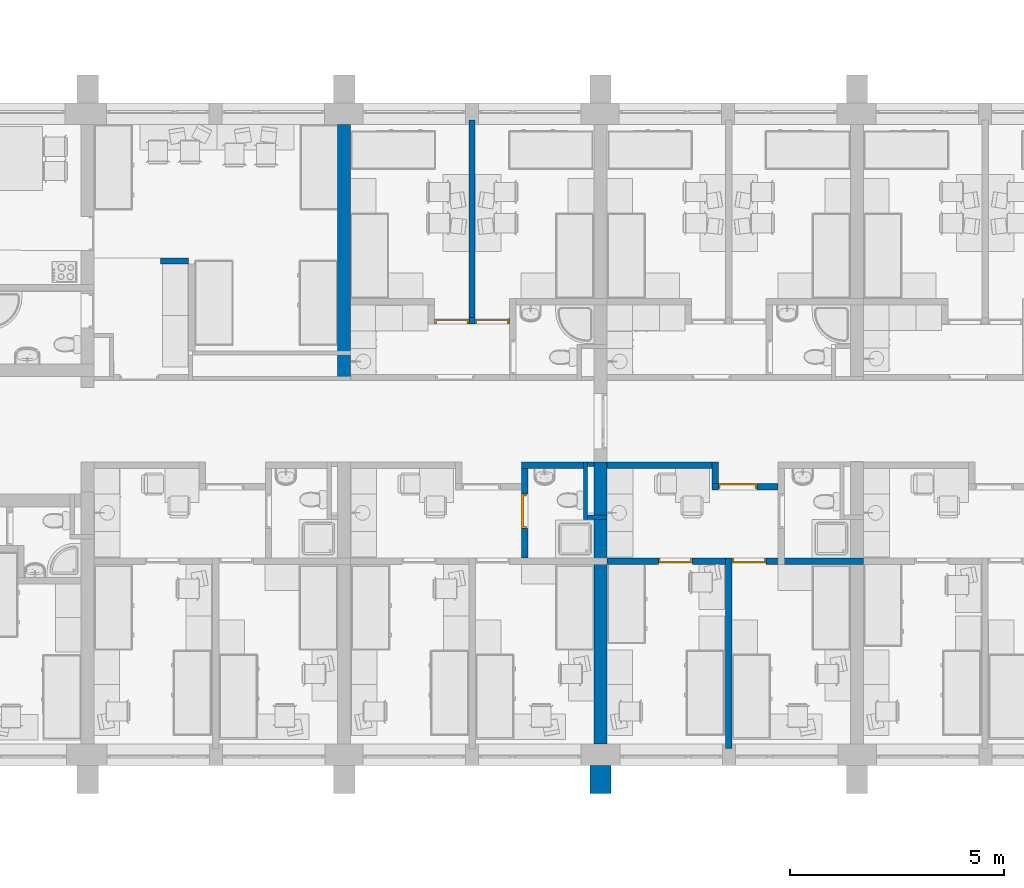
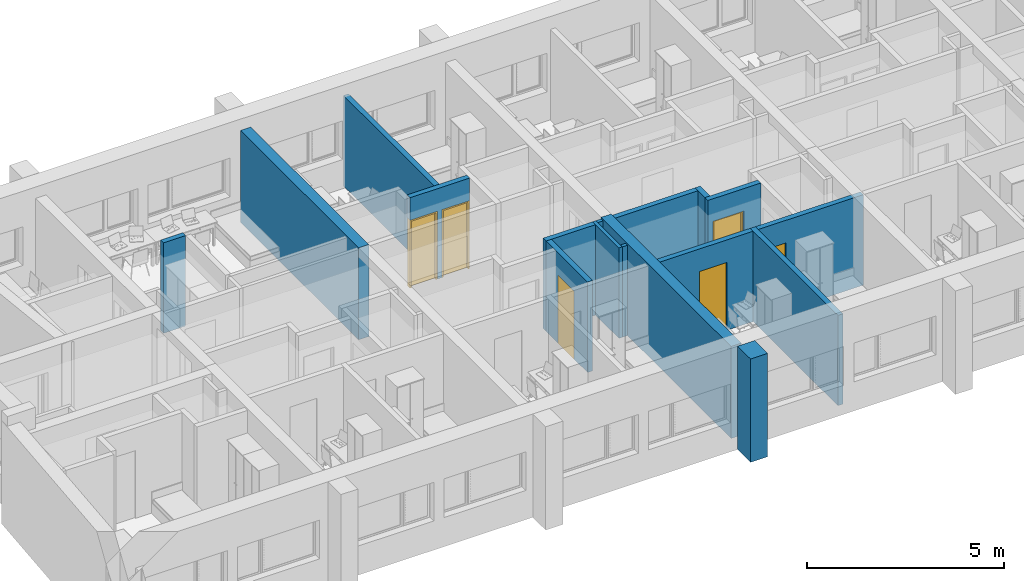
# One storey, part 5 of 165: 16 walls, 6 doors, 6 openings.
"""IFC2X3 building model written with IfcOpenShell, lengths in millimetres."""

from ifc_helpers import new_model, entity, si_unit, converted_unit, money_unit, direction, frame, origin_with_axes, place, context, subcontext, project, spatial, polyline, outline, extrude, faceted_brep, source, transform, mapped, material, material_list, layer, layer_set, layer_usage, type_object, element, fill, save


model = new_model("IFC2X3")

# Units and contexts
model_context = context("Model", 3, precision=1e-05, world=origin_with_axes(), true_north=direction((0.0, 1.0)))
body_context = subcontext(model_context, "Body", "Model", "MODEL_VIEW")
ifc_project = project(units=[si_unit("LENGTHUNIT", "METRE", prefix="MILLI"), si_unit("AREAUNIT", "SQUARE_METRE"), si_unit("VOLUMEUNIT", "CUBIC_METRE"), converted_unit("PLANEANGLEUNIT", "DEGREE", entity("IfcPlaneAngleMeasure", 0.0174532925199), si_unit("PLANEANGLEUNIT", "RADIAN"), dimensions=[0, 0, 0, 0, 0, 0, 0]), si_unit("SOLIDANGLEUNIT", "STERADIAN"), money_unit("USD"), converted_unit("TIMEUNIT", "Year", entity("IfcTimeMeasure", 31556926.0), si_unit("TIMEUNIT", "SECOND"), dimensions=[0, 0, 0, 0, 0, 0, 0]), si_unit("MASSUNIT", "GRAM"), si_unit("THERMODYNAMICTEMPERATUREUNIT", "DEGREE_CELSIUS"), si_unit("LUMINOUSINTENSITYUNIT", "LUMEN")], contexts=[model_context])

# Site, building, storey
site_placement = place(None, origin_with_axes())
site = spatial("IfcSite", under=ifc_project, at=site_placement, Name="Site", CompositionType="ELEMENT")
building_placement = place(site_placement, origin_with_axes())
building = spatial("IfcBuilding", under=site, at=building_placement, Name="Building", CompositionType="ELEMENT")
storey_placement = place(building_placement, frame((0.0, 0.0, 6300.0), z_axis=(0.0, 0.0, 1.0), x_axis=(1.0, 0.0, 0.0)))
storey = spatial("IfcBuildingStorey", under=building, at=storey_placement, Name="4KORRUS", CompositionType="ELEMENT", Elevation=6300.0)

# Walls
ifc_material_1 = material(Name="Olemasolevad seinad tellis, uus viimistlus")
ifc_layer_1 = layer(ifc_material_1, 500.0, ventilated="UNKNOWN")
ifc_layer_set_1 = layer_set([ifc_layer_1], Name="Olemasolevad seinad tellis, uus viimistlus 500")
ifc_layer_usage_1 = layer_usage(ifc_layer_set_1, "AXIS2", "POSITIVE", -100.0)
wall_type_1 = type_object("IfcWallType", Name="Olemasolevad seinad tellis, uus viimistlus 500", PredefinedType="NOTDEFINED")
wall_1_placement = place(storey_placement, frame((-35990.2967033, -20796.6419407, 0.0), z_axis=(0.0, 0.0, 1.0), x_axis=(0.0, 1.0, 0.0)))
element("IfcWallStandardCase", 1, at=wall_1_placement, inside=storey, type_object=wall_type_1, material=ifc_layer_usage_1, Name="VS1", ObjectType="VS1", context=body_context, shape_type="SweptSolid", body=[
    extrude(outline(polyline([(0.0, -100.0), (657.402041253, -100.0), (657.402041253, 400.0), (0.0, 400.0), (0.0, -100.0)])), origin_with_axes(), (0.0, 0.0, 1.0), 3200.0),
])
ifc_material_2 = material(Name="UmbKipsplaat")
ifc_layer_2 = layer(ifc_material_2, 13.0, ventilated="UNKNOWN")
ifc_layer_3 = layer(ifc_material_2, 13.0, ventilated="UNKNOWN")
ifc_material_3 = material(Name="SOOJUSTUS MINERAALVILL")
ifc_layer_4 = layer(ifc_material_3, 98.0, ventilated="UNKNOWN")
ifc_layer_5 = layer(ifc_material_2, 13.0, ventilated="UNKNOWN")
ifc_layer_6 = layer(ifc_material_2, 13.0, ventilated="UNKNOWN")
ifc_layer_set_2 = layer_set([ifc_layer_2, ifc_layer_3, ifc_layer_4, ifc_layer_5, ifc_layer_6], Name="kipssein150")
ifc_layer_usage_2 = layer_usage(ifc_layer_set_2, "AXIS2", "POSITIVE", 0.0)
wall_type_2 = type_object("IfcWallType", Name="kipssein150 150", PredefinedType="NOTDEFINED")
wall_2_placement = place(storey_placement, frame((-39222.0319183, -5039.6041088, 0.0), z_axis=(0.0, 0.0, 1.0), x_axis=(0.0, -1.0, 0.0)))
element("IfcWallStandardCase", 2, at=wall_2_placement, inside=storey, type_object=wall_type_2, material=ifc_layer_usage_2, Name="SS1", ObjectType="SS1", context=body_context, shape_type="SweptSolid", body=[
    extrude(outline(polyline([(0.0, 0.0), (4767.29002979, 0.0), (4767.29002979, 150.0), (0.0, 150.0), (0.0, 0.0)])), origin_with_axes(), (0.0, 0.0, 1.0), 2800.0),
])

# Wall, openings, doors
ifc_layer_usage_3 = layer_usage(ifc_layer_set_2, "AXIS2", "POSITIVE", 0.0)
wall_3_placement = place(storey_placement, frame((-40022.0319183, -9806.89413859, 0.0), z_axis=(0.0, 0.0, 1.0), x_axis=(1.0, 0.0, 0.0)))
wall_3 = element("IfcWallStandardCase", 3, at=wall_3_placement, inside=storey, type_object=wall_type_2, material=ifc_layer_usage_3, Name="SS1", ObjectType="SS1", context=body_context, shape_type="SweptSolid", body=[
    extrude(outline(polyline([(0.0, 0.0), (1750.44681959, 0.0), (1750.44681959, 150.0), (0.0, 150.0), (0.0, 0.0)])), origin_with_axes(), (0.0, 0.0, 1.0), 2800.0),
])
opening_1_placement = place(wall_3_placement, frame((1341.45577623, 0.0, 0.0), z_axis=(0.0, 0.0, 1.0), x_axis=(1.0, 0.0, 0.0)))
opening_1 = element("IfcOpeningElement", 4, at=opening_1_placement, cuts=wall_3, Name="SU3-5", context=body_context, shape_type="SweptSolid", body=[
    extrude(outline(polyline([(-400.0, 0.0), (400.0, 0.0), (400.0, 2100.0), (-400.0, 2100.0), (-400.0, 0.0)])), frame((0.0, 150.0, 0.0), z_axis=(0.0, 1.0, 0.0), x_axis=(-1.0, 0.0, 0.0)), (0.0, 0.0, -1.0), 450.0),
])
opening_2_placement = place(wall_3_placement, frame((400.0, 0.0, 0.0), z_axis=(0.0, 0.0, 1.0), x_axis=(1.0, 0.0, 0.0)))
opening_2 = element("IfcOpeningElement", 5, at=opening_2_placement, cuts=wall_3, Name="SU3-4", context=body_context, shape_type="SweptSolid", body=[
    extrude(outline(polyline([(-400.0, 0.0), (400.0, 0.0), (400.0, 2100.0), (-400.0, 2100.0), (-400.0, 0.0)])), frame((0.0, 150.0, 0.0), z_axis=(0.0, -1.0, 0.0), x_axis=(1.0, 0.0, 0.0)), (0.0, 0.0, 1.0), 450.0),
])
ifc_material_4 = material(Name="Background")
ifc_material_list = material_list([ifc_material_4])
door_style_1 = type_object("IfcDoorStyle", Name="Door 19", ConstructionType="NOTDEFINED", OperationType="SINGLE_SWING_LEFT", ParameterTakesPrecedence=False, Sizeable=False)
shared_shape_1 = source(origin_with_axes(), body_context, "Body", "Brep", [
    faceted_brep([(360.0, -75.0, 0.0), (360.0, -150.0, 0.0), (360.0, -150.0, 2060.0), (360.0, -75.0, 2060.0), (372.0, -75.0, 0.0), (372.0, -35.0, 0.0), (400.0, -35.0, 0.0), (400.0, -150.0, 0.0), (400.0, -150.0, 2060.0), (372.0, -75.0, 2060.0), (400.0, -35.0, 2060.0), (372.0, -35.0, 2060.0)], [[[0, 1, 2, 3]], [[4, 5, 6, 7, 1, 0]], [[2, 1, 7, 8]], [[9, 3, 2, 8, 10, 11]], [[9, 4, 0, 3]], [[11, 5, 4, 9]], [[11, 10, 6, 5]], [[7, 6, 10, 8]]]),
    faceted_brep([(-372.0, -75.0, 2060.0), (-372.0, -35.0, 2060.0), (-400.0, -35.0, 2060.0), (-400.0, -150.0, 2060.0), (-360.0, -150.0, 2060.0), (-360.0, -75.0, 2060.0), (-372.0, -75.0, 0.0), (-372.0, -35.0, 0.0), (-400.0, -35.0, 0.0), (-400.0, -150.0, 0.0), (-360.0, -150.0, 0.0), (-360.0, -75.0, 0.0)], [[[0, 1, 2, 3, 4, 5]], [[0, 6, 7, 1]], [[7, 8, 2, 1]], [[3, 2, 8, 9]], [[4, 3, 9, 10]], [[5, 4, 10, 11]], [[5, 11, 6, 0]], [[6, 11, 10, 9, 8, 7]]]),
    faceted_brep([(372.0, -35.0, 2072.0), (-372.0, -35.0, 2072.0), (-372.0, -35.0, 2060.0), (-400.0, -35.0, 2060.0), (-400.0, -35.0, 2100.0), (400.0, -35.0, 2100.0), (400.0, -35.0, 2060.0), (372.0, -35.0, 2060.0), (372.0, -75.0, 2072.0), (-372.0, -75.0, 2072.0), (-372.0, -75.0, 2060.0), (-360.0, -75.0, 2060.0), (-360.0, -150.0, 2060.0), (-400.0, -150.0, 2060.0), (-400.0, -150.0, 2100.0), (400.0, -150.0, 2100.0), (400.0, -150.0, 2060.0), (372.0, -75.0, 2060.0), (360.0, -150.0, 2060.0), (360.0, -75.0, 2060.0)], [[[0, 1, 2, 3, 4, 5, 6, 7]], [[0, 8, 9, 1]], [[1, 9, 10, 2]], [[10, 11, 12, 13, 3, 2]], [[14, 4, 3, 13]], [[15, 5, 4, 14]], [[16, 6, 5, 15]], [[17, 7, 6, 16, 18, 19]], [[7, 17, 8, 0]], [[10, 9, 8, 17, 19, 11]], [[19, 18, 12, 11]], [[13, 12, 18, 16, 15, 14]]]),
    faceted_brep([(-372.0, -35.0, 0.0), (372.0, -35.0, 0.0), (372.0, -75.0, 0.0), (-372.0, -75.0, 0.0), (-372.0, -35.0, 2072.0), (372.0, -35.0, 2072.0), (372.0, -75.0, 2072.0), (-372.0, -75.0, 2072.0)], [[[0, 1, 2, 3]], [[0, 4, 5, 1]], [[1, 5, 6, 2]], [[3, 2, 6, 7]], [[4, 0, 3, 7]], [[5, 4, 7, 6]]]),
])
door_1_placement = place(opening_1_placement, frame((-400.0, 0.0, 0.0), z_axis=(0.0, 0.0, 1.0), x_axis=(1.0, 0.0, 0.0)))
door_1 = element("IfcDoor", 6, at=door_1_placement, inside=storey, type_object=door_style_1, material=ifc_material_list, Name="SU3-5", ObjectType="Toa uks", OverallHeight=2100.0, OverallWidth=800.0, context=body_context, shape_type="MappedRepresentation", body=[
    mapped(shared_shape_1, transform((400.0, 150.0, 0.0))),
])
fill(opening_1, door_1)
door_style_2 = type_object("IfcDoorStyle", Name="Door 19", ConstructionType="NOTDEFINED", OperationType="SINGLE_SWING_RIGHT", ParameterTakesPrecedence=False, Sizeable=False)
shared_shape_2 = source(origin_with_axes(), body_context, "Body", "Brep", [
    faceted_brep([(-360.0, -75.0, 0.0), (-360.0, -75.0, 2060.0), (-360.0, -150.0, 2060.0), (-360.0, -150.0, 0.0), (-372.0, -75.0, 2060.0), (-372.0, -75.0, 0.0), (-372.0, -35.0, 2060.0), (-400.0, -35.0, 2060.0), (-400.0, -150.0, 2060.0), (-400.0, -150.0, 0.0), (-400.0, -35.0, 0.0), (-372.0, -35.0, 0.0)], [[[0, 1, 2, 3]], [[4, 1, 0, 5]], [[4, 6, 7, 8, 2, 1]], [[2, 8, 9, 3]], [[5, 0, 3, 9, 10, 11]], [[6, 4, 5, 11]], [[6, 11, 10, 7]], [[9, 8, 7, 10]]]),
    faceted_brep([(372.0, -75.0, 2060.0), (360.0, -75.0, 2060.0), (360.0, -150.0, 2060.0), (400.0, -150.0, 2060.0), (400.0, -35.0, 2060.0), (372.0, -35.0, 2060.0), (372.0, -75.0, 0.0), (360.0, -75.0, 0.0), (360.0, -150.0, 0.0), (400.0, -150.0, 0.0), (400.0, -35.0, 0.0), (372.0, -35.0, 0.0)], [[[0, 1, 2, 3, 4, 5]], [[1, 0, 6, 7]], [[1, 7, 8, 2]], [[2, 8, 9, 3]], [[3, 9, 10, 4]], [[11, 5, 4, 10]], [[0, 5, 11, 6]], [[6, 11, 10, 9, 8, 7]]]),
    faceted_brep([(-372.0, -35.0, 2072.0), (-372.0, -35.0, 2060.0), (-400.0, -35.0, 2060.0), (-400.0, -35.0, 2100.0), (400.0, -35.0, 2100.0), (400.0, -35.0, 2060.0), (372.0, -35.0, 2060.0), (372.0, -35.0, 2072.0), (-372.0, -75.0, 2072.0), (-372.0, -75.0, 2060.0), (-360.0, -75.0, 2060.0), (-360.0, -150.0, 2060.0), (-400.0, -150.0, 2060.0), (-400.0, -150.0, 2100.0), (400.0, -150.0, 2100.0), (400.0, -150.0, 2060.0), (372.0, -75.0, 2060.0), (360.0, -150.0, 2060.0), (360.0, -75.0, 2060.0), (372.0, -75.0, 2072.0)], [[[0, 1, 2, 3, 4, 5, 6, 7]], [[1, 0, 8, 9]], [[9, 10, 11, 12, 2, 1]], [[12, 13, 3, 2]], [[13, 14, 4, 3]], [[14, 15, 5, 4]], [[16, 6, 5, 15, 17, 18]], [[7, 6, 16, 19]], [[0, 7, 19, 8]], [[16, 18, 10, 9, 8, 19]], [[10, 18, 17, 11]], [[15, 14, 13, 12, 11, 17]]]),
    faceted_brep([(372.0, -35.0, 0.0), (372.0, -75.0, 0.0), (-372.0, -75.0, 0.0), (-372.0, -35.0, 0.0), (372.0, -35.0, 2072.0), (372.0, -75.0, 2072.0), (-372.0, -75.0, 2072.0), (-372.0, -35.0, 2072.0)], [[[0, 1, 2, 3]], [[4, 5, 1, 0]], [[1, 5, 6, 2]], [[3, 2, 6, 7]], [[0, 3, 7, 4]], [[7, 6, 5, 4]]]),
])
door_2_placement = place(opening_2_placement, frame((-400.0, 0.0, 0.0), z_axis=(0.0, 0.0, 1.0), x_axis=(1.0, 0.0, 0.0)))
door_2 = element("IfcDoor", 7, at=door_2_placement, inside=storey, type_object=door_style_2, material=ifc_material_list, Name="SU3-4", ObjectType="Toa uks", OverallHeight=2100.0, OverallWidth=800.0, context=body_context, shape_type="MappedRepresentation", body=[
    mapped(shared_shape_2, transform((400.0, 150.0, 0.0))),
])
fill(opening_2, door_2)

# Wall
ifc_layer_usage_4 = layer_usage(ifc_layer_set_2, "AXIS2", "POSITIVE", 0.0)
wall_4_placement = place(storey_placement, frame((-46433.9824806, -8409.87086674, 0.0), z_axis=(0.0, 0.0, 1.0), x_axis=(1.0, 0.0, 0.0)))
element("IfcWallStandardCase", 8, at=wall_4_placement, inside=storey, type_object=wall_type_2, material=ifc_layer_usage_4, Name="SS1", ObjectType="SS1", context=body_context, shape_type="SweptSolid", body=[
    extrude(outline(polyline([(0.0, 0.0), (649.849705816, 0.0), (649.849705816, 150.0), (0.0, 150.0), (0.0, 0.0)])), origin_with_axes(), (0.0, 0.0, 1.0), 2800.0),
])

# Wall, opening, door
ifc_layer_usage_5 = layer_usage(ifc_layer_set_2, "AXIS2", "POSITIVE", -150.0)
wall_5_placement = place(storey_placement, frame((-37984.201689, -15289.2398994, 0.0), z_axis=(0.0, 0.0, 1.0), x_axis=(0.0, 1.0, 0.0)))
wall_5 = element("IfcWallStandardCase", 9, at=wall_5_placement, inside=storey, type_object=wall_type_2, material=ifc_layer_usage_5, Name="SS1", ObjectType="SS1", context=body_context, shape_type="SweptSolid", body=[
    extrude(outline(polyline([(0.0, -150.0), (2249.86932682, -150.0), (2249.86932682, 0.0), (0.0, 0.0), (0.0, -150.0)])), origin_with_axes(), (0.0, 0.0, 1.0), 2800.0),
])
opening_3_placement = place(wall_5_placement, frame((1099.78749111, 0.0, 0.0), z_axis=(0.0, 0.0, 1.0), x_axis=(1.0, 0.0, 0.0)))
opening_3 = element("IfcOpeningElement", 10, at=opening_3_placement, cuts=wall_5, Name="SU3-2", context=body_context, shape_type="SweptSolid", body=[
    extrude(outline(polyline([(-400.0, -2100.0), (400.0, -2100.0), (400.0, 0.0), (-400.0, 0.0), (-400.0, -2100.0)])), frame((0.0, -150.0, 0.0), z_axis=(0.0, 1.0, 0.0), x_axis=(1.0, 0.0, 0.0)), (0.0, 0.0, 1.0), 450.0),
])
door_style_3 = type_object("IfcDoorStyle", Name="Door 19", ConstructionType="NOTDEFINED", OperationType="SINGLE_SWING_RIGHT", ParameterTakesPrecedence=False, Sizeable=False)
shared_shape_3 = source(origin_with_axes(), body_context, "Body", "Brep", [
    faceted_brep([(-360.0, -40.0, 0.0), (-360.0, -40.0, 2060.0), (-360.0, -115.0, 2060.0), (-360.0, -115.0, 0.0), (-372.0, -40.0, 2060.0), (-372.0, -40.0, 0.0), (-372.0, 0.0, 2060.0), (-400.0, 0.0, 2060.0), (-400.0, -115.0, 2060.0), (-400.0, -115.0, 0.0), (-400.0, 0.0, 0.0), (-372.0, 0.0, 0.0)], [[[0, 1, 2, 3]], [[4, 1, 0, 5]], [[4, 6, 7, 8, 2, 1]], [[2, 8, 9, 3]], [[5, 0, 3, 9, 10, 11]], [[6, 4, 5, 11]], [[6, 11, 10, 7]], [[9, 8, 7, 10]]]),
    faceted_brep([(372.0, -40.0, 2060.0), (360.0, -40.0, 2060.0), (360.0, -115.0, 2060.0), (400.0, -115.0, 2060.0), (400.0, 0.0, 2060.0), (372.0, 0.0, 2060.0), (372.0, -40.0, 0.0), (360.0, -40.0, 0.0), (360.0, -115.0, 0.0), (400.0, -115.0, 0.0), (400.0, 0.0, 0.0), (372.0, 0.0, 0.0)], [[[0, 1, 2, 3, 4, 5]], [[1, 0, 6, 7]], [[1, 7, 8, 2]], [[2, 8, 9, 3]], [[3, 9, 10, 4]], [[11, 5, 4, 10]], [[0, 5, 11, 6]], [[6, 11, 10, 9, 8, 7]]]),
    faceted_brep([(-372.0, 0.0, 2072.0), (-372.0, 0.0, 2060.0), (-400.0, 0.0, 2060.0), (-400.0, 0.0, 2100.0), (400.0, 0.0, 2100.0), (400.0, 0.0, 2060.0), (372.0, 0.0, 2060.0), (372.0, 0.0, 2072.0), (-372.0, -40.0, 2072.0), (-372.0, -40.0, 2060.0), (-360.0, -40.0, 2060.0), (-360.0, -115.0, 2060.0), (-400.0, -115.0, 2060.0), (-400.0, -115.0, 2100.0), (400.0, -115.0, 2100.0), (400.0, -115.0, 2060.0), (372.0, -40.0, 2060.0), (360.0, -115.0, 2060.0), (360.0, -40.0, 2060.0), (372.0, -40.0, 2072.0)], [[[0, 1, 2, 3, 4, 5, 6, 7]], [[1, 0, 8, 9]], [[9, 10, 11, 12, 2, 1]], [[12, 13, 3, 2]], [[13, 14, 4, 3]], [[14, 15, 5, 4]], [[16, 6, 5, 15, 17, 18]], [[7, 6, 16, 19]], [[0, 7, 19, 8]], [[16, 18, 10, 9, 8, 19]], [[10, 18, 17, 11]], [[15, 14, 13, 12, 11, 17]]]),
    faceted_brep([(372.0, 0.0, 0.0), (372.0, -40.0, 0.0), (-372.0, -40.0, 0.0), (-372.0, 0.0, 0.0), (372.0, 0.0, 2072.0), (372.0, -40.0, 2072.0), (-372.0, -40.0, 2072.0), (-372.0, 0.0, 2072.0)], [[[0, 1, 2, 3]], [[4, 5, 1, 0]], [[1, 5, 6, 2]], [[3, 2, 6, 7]], [[0, 3, 7, 4]], [[7, 6, 5, 4]]]),
])
door_3_placement = place(opening_3_placement, frame((-400.0, 0.0, 0.0), z_axis=(0.0, 0.0, 1.0), x_axis=(1.0, 0.0, 0.0)))
door_3 = element("IfcDoor", 11, at=door_3_placement, inside=storey, type_object=door_style_3, material=ifc_material_list, Name="SU3-2", ObjectType="WC-uks", OverallHeight=2100.0, OverallWidth=800.0, context=body_context, shape_type="MappedRepresentation", body=[
    mapped(shared_shape_3, transform((400.0, 0.0, 0.0))),
])
fill(opening_3, door_3)

# Wall
ifc_layer_usage_6 = layer_usage(ifc_layer_set_2, "AXIS2", "POSITIVE", -150.0)
wall_6_placement = place(storey_placement, frame((-37984.201689, -13039.3705726, 0.0), z_axis=(0.0, 0.0, 1.0), x_axis=(1.0, 0.0, 0.0)))
element("IfcWallStandardCase", 12, at=wall_6_placement, inside=storey, type_object=wall_type_2, material=ifc_layer_usage_6, Name="SS1", ObjectType="SS1", context=body_context, shape_type="SweptSolid", body=[
    extrude(outline(polyline([(0.0, -150.0), (1450.19338105, -150.0), (1450.19338105, 0.0), (0.0, 0.0), (0.0, -150.0)])), origin_with_axes(), (0.0, 0.0, 1.0), 2800.0),
])

# Wall, openings, doors
ifc_layer_usage_7 = layer_usage(ifc_layer_set_2, "AXIS2", "POSITIVE", -150.0)
wall_7_placement = place(storey_placement, frame((-29990.2967033, -15439.2398994, 0.0), z_axis=(0.0, 0.0, 1.0), x_axis=(-1.0, 0.0, 0.0)))
wall_7 = element("IfcWallStandardCase", 13, at=wall_7_placement, inside=storey, type_object=wall_type_2, material=ifc_layer_usage_7, Name="SS1", ObjectType="SS1", context=body_context, shape_type="SweptSolid", body=[
    extrude(outline(polyline([(0.0, -150.0), (6000.0, -150.0), (6000.0, 0.0), (0.0, 0.0), (0.0, -150.0)])), origin_with_axes(), (0.0, 0.0, 1.0), 2800.0),
])
opening_4_placement = place(wall_7_placement, frame((4400.0, 0.0, 0.0), z_axis=(0.0, 0.0, 1.0), x_axis=(1.0, 0.0, 0.0)))
opening_4 = element("IfcOpeningElement", 14, at=opening_4_placement, cuts=wall_7, Name="SU3-5", context=body_context, shape_type="SweptSolid", body=[
    extrude(outline(polyline([(-400.0, 0.0), (400.0, 0.0), (400.0, 2100.0), (-400.0, 2100.0), (-400.0, 0.0)])), frame((0.0, 150.0, 0.0), z_axis=(0.0, 1.0, 0.0), x_axis=(-1.0, 0.0, 0.0)), (0.0, 0.0, -1.0), 450.0),
])
opening_5_placement = place(wall_7_placement, frame((2675.0, 0.0, 0.0), z_axis=(0.0, 0.0, 1.0), x_axis=(1.0, 0.0, 0.0)))
opening_5 = element("IfcOpeningElement", 15, at=opening_5_placement, cuts=wall_7, Name="SU3-4", context=body_context, shape_type="SweptSolid", body=[
    extrude(outline(polyline([(-400.0, 0.0), (400.0, 0.0), (400.0, 2100.0), (-400.0, 2100.0), (-400.0, 0.0)])), frame((0.0, 150.0, 0.0), z_axis=(0.0, -1.0, 0.0), x_axis=(1.0, 0.0, 0.0)), (0.0, 0.0, 1.0), 450.0),
])
door_style_4 = type_object("IfcDoorStyle", Name="Door 19", ConstructionType="NOTDEFINED", OperationType="SINGLE_SWING_LEFT", ParameterTakesPrecedence=False, Sizeable=False)
door_4_placement = place(opening_4_placement, frame((-400.0, 0.0, 0.0), z_axis=(0.0, 0.0, 1.0), x_axis=(1.0, 0.0, 0.0)))
door_4 = element("IfcDoor", 16, at=door_4_placement, inside=storey, type_object=door_style_4, material=ifc_material_list, Name="SU3-5", ObjectType="Toa uks", OverallHeight=2100.0, OverallWidth=800.0, context=body_context, shape_type="MappedRepresentation", body=[
    mapped(shared_shape_1, transform((400.0, 0.0, 0.0))),
])
fill(opening_4, door_4)
door_style_5 = type_object("IfcDoorStyle", Name="Door 19", ConstructionType="NOTDEFINED", OperationType="SINGLE_SWING_RIGHT", ParameterTakesPrecedence=False, Sizeable=False)
shared_shape_4 = source(origin_with_axes(), body_context, "Body", "Brep", [
    faceted_brep([(-360.0, -75.0, 0.0), (-360.0, -75.0, 2060.0), (-360.0, -150.0, 2060.0), (-360.0, -150.0, 0.0), (-372.0, -75.0, 2060.0), (-372.0, -75.0, 0.0), (-372.0, -35.0, 2060.0), (-400.0, -35.0, 2060.0), (-400.0, -150.0, 2060.0), (-400.0, -150.0, 0.0), (-400.0, -35.0, 0.0), (-372.0, -35.0, 0.0)], [[[0, 1, 2, 3]], [[4, 1, 0, 5]], [[4, 6, 7, 8, 2, 1]], [[2, 8, 9, 3]], [[5, 0, 3, 9, 10, 11]], [[6, 4, 5, 11]], [[6, 11, 10, 7]], [[9, 8, 7, 10]]]),
    faceted_brep([(372.0, -75.0, 2060.0), (360.0, -75.0, 2060.0), (360.0, -150.0, 2060.0), (400.0, -150.0, 2060.0), (400.0, -35.0, 2060.0), (372.0, -35.0, 2060.0), (372.0, -75.0, 0.0), (360.0, -75.0, 0.0), (360.0, -150.0, 0.0), (400.0, -150.0, 0.0), (400.0, -35.0, 0.0), (372.0, -35.0, 0.0)], [[[0, 1, 2, 3, 4, 5]], [[1, 0, 6, 7]], [[1, 7, 8, 2]], [[2, 8, 9, 3]], [[3, 9, 10, 4]], [[11, 5, 4, 10]], [[0, 5, 11, 6]], [[6, 11, 10, 9, 8, 7]]]),
    faceted_brep([(-372.0, -35.0, 2072.0), (-372.0, -35.0, 2060.0), (-400.0, -35.0, 2060.0), (-400.0, -35.0, 2100.0), (400.0, -35.0, 2100.0), (400.0, -35.0, 2060.0), (372.0, -35.0, 2060.0), (372.0, -35.0, 2072.0), (-372.0, -75.0, 2072.0), (-372.0, -75.0, 2060.0), (-360.0, -75.0, 2060.0), (-360.0, -150.0, 2060.0), (-400.0, -150.0, 2060.0), (-400.0, -150.0, 2100.0), (400.0, -150.0, 2100.0), (400.0, -150.0, 2060.0), (372.0, -75.0, 2060.0), (360.0, -150.0, 2060.0), (360.0, -75.0, 2060.0), (372.0, -75.0, 2072.0)], [[[0, 1, 2, 3, 4, 5, 6, 7]], [[1, 0, 8, 9]], [[9, 10, 11, 12, 2, 1]], [[12, 13, 3, 2]], [[13, 14, 4, 3]], [[14, 15, 5, 4]], [[16, 6, 5, 15, 17, 18]], [[7, 6, 16, 19]], [[0, 7, 19, 8]], [[16, 18, 10, 9, 8, 19]], [[10, 18, 17, 11]], [[15, 14, 13, 12, 11, 17]]]),
    faceted_brep([(372.0, -35.0, 0.0), (372.0, -75.0, 0.0), (-372.0, -75.0, 0.0), (-372.0, -35.0, 0.0), (372.0, -35.0, 2072.0), (372.0, -75.0, 2072.0), (-372.0, -75.0, 2072.0), (-372.0, -35.0, 2072.0)], [[[0, 1, 2, 3]], [[4, 5, 1, 0]], [[1, 5, 6, 2]], [[3, 2, 6, 7]], [[0, 3, 7, 4]], [[7, 6, 5, 4]]]),
])
door_5_placement = place(opening_5_placement, frame((-400.0, 0.0, 0.0), z_axis=(0.0, 0.0, 1.0), x_axis=(1.0, 0.0, 0.0)))
door_5 = element("IfcDoor", 17, at=door_5_placement, inside=storey, type_object=door_style_5, material=ifc_material_list, Name="SU3-4", ObjectType="Toa uks", OverallHeight=2100.0, OverallWidth=800.0, context=body_context, shape_type="MappedRepresentation", body=[
    mapped(shared_shape_4, transform((400.0, 0.0, 0.0))),
])
fill(opening_5, door_5)

# Walls
ifc_layer_usage_8 = layer_usage(ifc_layer_set_2, "AXIS2", "POSITIVE", 0.0)
wall_8_placement = place(storey_placement, frame((-33070.2967033, -19739.2398994, 0.0), z_axis=(0.0, 0.0, 1.0), x_axis=(0.0, 1.0, 0.0)))
element("IfcWallStandardCase", 18, at=wall_8_placement, inside=storey, type_object=wall_type_2, material=ifc_layer_usage_8, Name="SS1", ObjectType="SS1", context=body_context, shape_type="SweptSolid", body=[
    extrude(outline(polyline([(0.0, 0.0), (4450.0, 0.0), (4450.0, 150.0), (0.0, 150.0), (0.0, 0.0)])), origin_with_axes(), (0.0, 0.0, 1.0), 2800.0),
])
ifc_layer_usage_9 = layer_usage(ifc_layer_set_2, "AXIS2", "POSITIVE", 0.0)
wall_9_placement = place(storey_placement, frame((-33533.8623684, -13039.2398994, 0.0), z_axis=(0.0, 0.0, 1.0), x_axis=(-1.0, 0.0, 0.0)))
element("IfcWallStandardCase", 19, at=wall_9_placement, inside=storey, type_object=wall_type_2, material=ifc_layer_usage_9, Name="SS1", ObjectType="SS1", context=body_context, shape_type="SweptSolid", body=[
    extrude(outline(polyline([(0.0, 0.0), (2450.14593957, 0.0), (2450.14593957, 150.0), (0.0, 150.0), (0.0, 0.0)])), origin_with_axes(), (0.0, 0.0, 1.0), 2800.0),
])

# Wall, opening, door
ifc_layer_usage_10 = layer_usage(ifc_layer_set_2, "AXIS2", "POSITIVE", 0.0)
wall_10_placement = place(storey_placement, frame((-31984.201689, -13539.4524083, 0.0), z_axis=(0.0, 0.0, 1.0), x_axis=(-1.0, 0.0, 0.0)))
wall_10 = element("IfcWallStandardCase", 20, at=wall_10_placement, inside=storey, type_object=wall_type_2, material=ifc_layer_usage_10, Name="SS1", ObjectType="SS1", context=body_context, shape_type="SweptSolid", body=[
    extrude(outline(polyline([(0.0, 0.0), (1549.66067938, 0.0), (1549.66067938, 150.0), (0.0, 150.0), (0.0, 0.0)])), origin_with_axes(), (0.0, 0.0, 1.0), 2800.0),
])
opening_6_placement = place(wall_10_placement, frame((949.660679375, 0.0, 0.0), z_axis=(0.0, 0.0, 1.0), x_axis=(1.0, 0.0, 0.0)))
opening_6 = element("IfcOpeningElement", 21, at=opening_6_placement, cuts=wall_10, Name="SU2-6", context=body_context, shape_type="SweptSolid", body=[
    extrude(outline(polyline([(-450.0, -2100.0), (450.0, -2100.0), (450.0, 0.0), (-450.0, 0.0), (-450.0, -2100.0)])), frame((0.0, 150.0, 0.0), z_axis=(0.0, 1.0, 0.0), x_axis=(1.0, 0.0, 0.0)), (0.0, 0.0, -1.0), 450.0),
])
door_style_6 = type_object("IfcDoorStyle", Name="Door 19", ConstructionType="NOTDEFINED", OperationType="SINGLE_SWING_LEFT", ParameterTakesPrecedence=False, Sizeable=False)
shared_shape_5 = source(origin_with_axes(), body_context, "Body", "Brep", [
    faceted_brep([(410.0, -40.0, 0.0), (410.0, -115.0, 0.0), (410.0, -115.0, 2060.0), (410.0, -40.0, 2060.0), (422.0, -40.0, 0.0), (422.0, 0.0, 0.0), (450.0, 0.0, 0.0), (450.0, -115.0, 0.0), (450.0, -115.0, 2060.0), (422.0, -40.0, 2060.0), (450.0, 0.0, 2060.0), (422.0, 0.0, 2060.0)], [[[0, 1, 2, 3]], [[4, 5, 6, 7, 1, 0]], [[2, 1, 7, 8]], [[9, 3, 2, 8, 10, 11]], [[9, 4, 0, 3]], [[11, 5, 4, 9]], [[11, 10, 6, 5]], [[7, 6, 10, 8]]]),
    faceted_brep([(-422.0, -40.0, 2060.0), (-422.0, 0.0, 2060.0), (-450.0, 0.0, 2060.0), (-450.0, -115.0, 2060.0), (-410.0, -115.0, 2060.0), (-410.0, -40.0, 2060.0), (-422.0, -40.0, 0.0), (-422.0, 0.0, 0.0), (-450.0, 0.0, 0.0), (-450.0, -115.0, 0.0), (-410.0, -115.0, 0.0), (-410.0, -40.0, 0.0)], [[[0, 1, 2, 3, 4, 5]], [[0, 6, 7, 1]], [[7, 8, 2, 1]], [[3, 2, 8, 9]], [[4, 3, 9, 10]], [[5, 4, 10, 11]], [[5, 11, 6, 0]], [[6, 11, 10, 9, 8, 7]]]),
    faceted_brep([(422.0, 0.0, 2072.0), (-422.0, 0.0, 2072.0), (-422.0, 0.0, 2060.0), (-450.0, 0.0, 2060.0), (-450.0, 0.0, 2100.0), (450.0, 0.0, 2100.0), (450.0, 0.0, 2060.0), (422.0, 0.0, 2060.0), (422.0, -40.0, 2072.0), (-422.0, -40.0, 2072.0), (-422.0, -40.0, 2060.0), (-410.0, -40.0, 2060.0), (-410.0, -115.0, 2060.0), (-450.0, -115.0, 2060.0), (-450.0, -115.0, 2100.0), (450.0, -115.0, 2100.0), (450.0, -115.0, 2060.0), (422.0, -40.0, 2060.0), (410.0, -115.0, 2060.0), (410.0, -40.0, 2060.0)], [[[0, 1, 2, 3, 4, 5, 6, 7]], [[0, 8, 9, 1]], [[1, 9, 10, 2]], [[10, 11, 12, 13, 3, 2]], [[14, 4, 3, 13]], [[15, 5, 4, 14]], [[16, 6, 5, 15]], [[17, 7, 6, 16, 18, 19]], [[7, 17, 8, 0]], [[10, 9, 8, 17, 19, 11]], [[19, 18, 12, 11]], [[13, 12, 18, 16, 15, 14]]]),
    faceted_brep([(-422.0, 0.0, 0.0), (422.0, 0.0, 0.0), (422.0, -40.0, 0.0), (-422.0, -40.0, 0.0), (-422.0, 0.0, 2072.0), (422.0, 0.0, 2072.0), (422.0, -40.0, 2072.0), (-422.0, -40.0, 2072.0)], [[[0, 1, 2, 3]], [[0, 4, 5, 1]], [[1, 5, 6, 2]], [[3, 2, 6, 7]], [[4, 0, 3, 7]], [[5, 4, 7, 6]]]),
])
door_6_placement = place(opening_6_placement, frame((450.0, 0.0, 0.0), z_axis=(0.0, 0.0, 1.0), x_axis=(-1.0, 0.0, 0.0)))
door_6 = element("IfcDoor", 22, at=door_6_placement, inside=storey, type_object=door_style_6, material=ifc_material_list, Name="SU2-6", ObjectType="Korteri välisuks", OverallHeight=2100.0, OverallWidth=900.0, context=body_context, shape_type="MappedRepresentation", body=[
    mapped(shared_shape_5, transform((450.0, 0.0, 0.0))),
])
fill(opening_6, door_6)

# Walls
ifc_layer_usage_11 = layer_usage(ifc_layer_set_2, "AXIS2", "POSITIVE", 0.0)
wall_11_placement = place(storey_placement, frame((-33533.8623684, -13039.2398994, 0.0), z_axis=(0.0, 0.0, 1.0), x_axis=(0.0, -1.0, 0.0)))
element("IfcWallStandardCase", 23, at=wall_11_placement, inside=storey, type_object=wall_type_2, material=ifc_layer_usage_11, Name="SS1", ObjectType="SS1", context=body_context, shape_type="SweptSolid", body=[
    extrude(outline(polyline([(0.0, 0.0), (500.212508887, 0.0), (500.212508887, 150.0), (0.0, 150.0), (0.0, 0.0)])), origin_with_axes(), (0.0, 0.0, 1.0), 2800.0),
])
ifc_material_5 = material(Name="Olemasolevad seinad tellis, uus viimistlus")
ifc_layer_7 = layer(ifc_material_5, 300.0, ventilated="UNKNOWN")
ifc_layer_set_3 = layer_set([ifc_layer_7], Name="Olemasolevad seinad tellis, uus viimistlus  300")
ifc_layer_usage_12 = layer_usage(ifc_layer_set_3, "AXIS2", "POSITIVE", 0.0)
wall_type_3 = type_object("IfcWallType", Name="Olemasolevad seinad tellis, uus viimistlus  300", PredefinedType="NOTDEFINED")
wall_12_placement = place(storey_placement, frame((-41990.2967033, -11136.6041088, 0.0), z_axis=(0.0, 0.0, 1.0), x_axis=(0.0, 1.0, 0.0)))
element("IfcWallStandardCase", 24, at=wall_12_placement, inside=storey, type_object=wall_type_3, material=ifc_layer_usage_12, Name="KS1", ObjectType="KS1", context=body_context, shape_type="SweptSolid", body=[
    extrude(outline(polyline([(0.0, 0.0), (5997.0, 0.0), (5997.0, 300.0), (0.0, 300.0), (0.0, 0.0)])), origin_with_axes(), (0.0, 0.0, 1.0), 2850.0),
])
ifc_layer_usage_13 = layer_usage(ifc_layer_set_3, "AXIS2", "POSITIVE", 0.0)
wall_13_placement = place(storey_placement, frame((-35990.2967033, -19639.2398994, 0.0), z_axis=(0.0, 0.0, 1.0), x_axis=(0.0, 1.0, 0.0)))
element("IfcWallStandardCase", 25, at=wall_13_placement, inside=storey, type_object=wall_type_3, material=ifc_layer_usage_13, Name="KS1", ObjectType="KS1", context=body_context, shape_type="SweptSolid", body=[
    extrude(outline(polyline([(0.0, 0.0), (6599.86932682, 0.0), (6599.86932682, 300.0), (0.0, 300.0), (0.0, 0.0)])), origin_with_axes(), (0.0, 0.0, 1.0), 2850.0),
])
ifc_material_6 = material(Name="krohv")
ifc_layer_8 = layer(ifc_material_6, 2.0, ventilated="UNKNOWN")
ifc_layer_9 = layer(ifc_material_6, 10.0, ventilated="UNKNOWN")
ifc_material_7 = material(Name="Kergplokk")
ifc_layer_10 = layer(ifc_material_7, 76.0, ventilated="UNKNOWN")
ifc_layer_11 = layer(ifc_material_6, 10.0, ventilated="UNKNOWN")
ifc_layer_12 = layer(ifc_material_6, 2.0, ventilated="UNKNOWN")
ifc_layer_set_4 = layer_set([ifc_layer_8, ifc_layer_9, ifc_layer_10, ifc_layer_11, ifc_layer_12], Name="Kergplokk Bauroc 100")
ifc_layer_usage_14 = layer_usage(ifc_layer_set_4, "AXIS2", "POSITIVE", -100.0)
wall_type_4 = type_object("IfcWallType", Name="Kergplokk Bauroc 100 100", PredefinedType="NOTDEFINED")
wall_14_placement = place(storey_placement, frame((-36440.008308, -13039.3705726, 0.0), z_axis=(0.0, 0.0, 1.0), x_axis=(1.0, 0.0, 0.0)))
element("IfcWallStandardCase", 26, at=wall_14_placement, inside=storey, type_object=wall_type_4, material=ifc_layer_usage_14, Name="SS2", ObjectType="SS2", context=body_context, shape_type="SweptSolid", body=[
    extrude(outline(polyline([(0.0, -100.0), (149.711604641, -100.0), (149.711604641, 0.0), (0.0, 0.0), (0.0, -100.0)])), origin_with_axes(), (0.0, 0.0, 1.0), 2800.0),
])
ifc_layer_usage_15 = layer_usage(ifc_layer_set_4, "AXIS2", "POSITIVE", -100.0)
wall_15_placement = place(storey_placement, frame((-36440.008308, -13039.3705726, 0.0), z_axis=(0.0, 0.0, 1.0), x_axis=(0.0, -1.0, 0.0)))
element("IfcWallStandardCase", 27, at=wall_15_placement, inside=storey, type_object=wall_type_4, material=ifc_layer_usage_15, Name="SS2", ObjectType="SS2", context=body_context, shape_type="SweptSolid", body=[
    extrude(outline(polyline([(0.0, -100.0), (1341.10105359, -100.0), (1341.10105359, 0.0), (0.0, 0.0), (0.0, -100.0)])), origin_with_axes(), (0.0, 0.0, 1.0), 2800.0),
])
ifc_layer_usage_16 = layer_usage(ifc_layer_set_4, "AXIS2", "POSITIVE", -100.0)
wall_16_placement = place(storey_placement, frame((-35990.2967033, -14380.4716262, 0.0), z_axis=(0.0, 0.0, 1.0), x_axis=(-1.0, 0.0, 0.0)))
element("IfcWallStandardCase", 28, at=wall_16_placement, inside=storey, type_object=wall_type_4, material=ifc_layer_usage_16, Name="SS2", ObjectType="SS2", context=body_context, shape_type="SweptSolid", body=[
    extrude(outline(polyline([(0.0, -100.0), (449.711604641, -100.0), (449.711604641, 0.0), (0.0, 0.0), (0.0, -100.0)])), origin_with_axes(), (0.0, 0.0, 1.0), 2800.0),
])

save(model, "model.ifc")
